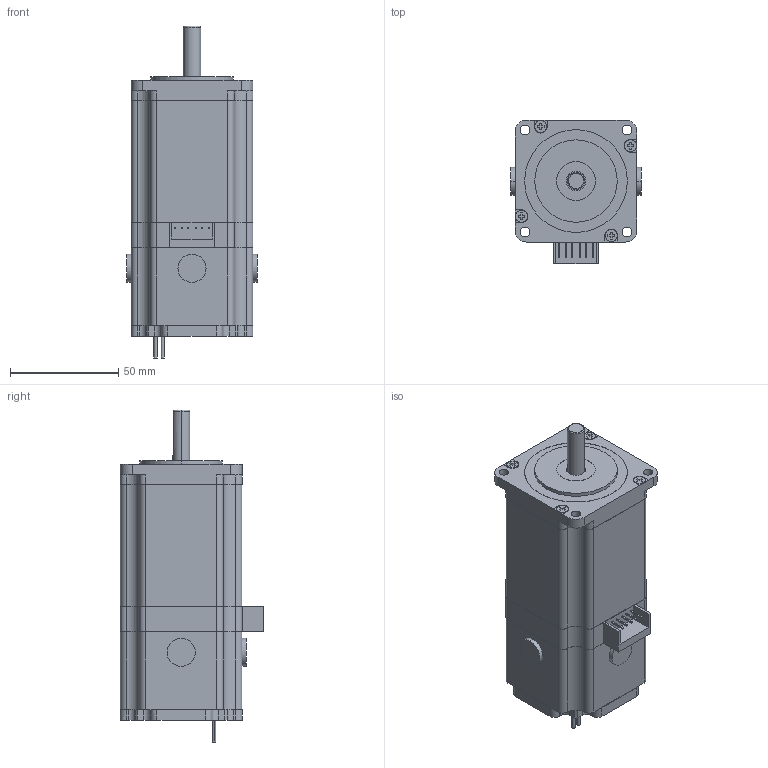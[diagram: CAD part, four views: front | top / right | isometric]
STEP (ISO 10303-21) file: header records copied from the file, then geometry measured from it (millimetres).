
FILE_DESCRIPTION (( 'STEP AP203' ), '1' );
FILE_NAME ('UB57D24-D42-478.STEP', '2020-06-30T07:21:39', ( '' ), ( '' ), 'SwSTEP 2.0', 'SolidWorks 2018', '' );
FILE_SCHEMA (( 'CONFIG_CONTROL_DESIGN' ));
Length unit declared in the file: millimetre
Products named in the file (1): UB57D24-D42-478
Bounding box: 60.2 x 66.4 x 153.5 mm (x, y, z)
Volume: 344707.3 mm3; surface area: 33327.5 mm2
Topology: 1 solids, 2 shells, 294 faces, 775 edges, 513 vertices
Faces by surface type: plane 178, cylinder 113, bspline 3
Entity records: 9253 total; most frequent: CARTESIAN_POINT 1661, DIRECTION 1592, ORIENTED_EDGE 1550, EDGE_CURVE 775, VECTOR 532, LINE 532, AXIS2_PLACEMENT_3D 530, VERTEX_POINT 513
